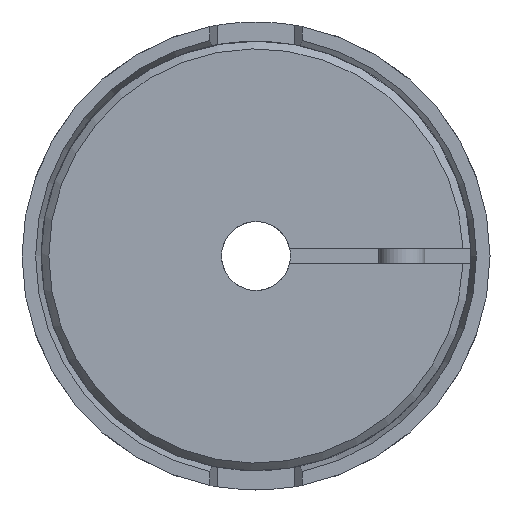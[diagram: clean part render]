
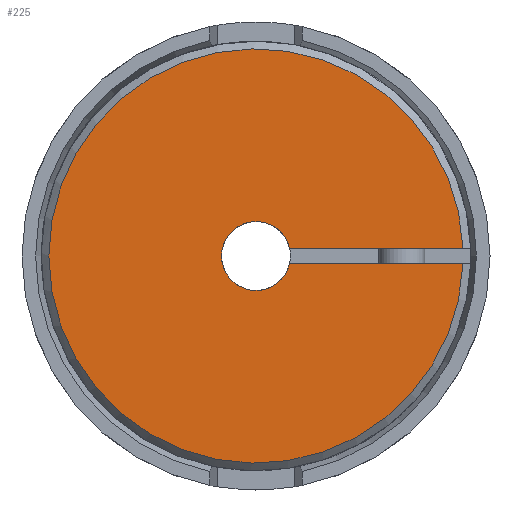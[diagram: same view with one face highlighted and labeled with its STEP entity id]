
A CAD part, left-side view. The second image highlights one B-rep face of the part: STEP entity #225.
In plain terms, the highlighted planar face has unit normal (-1, 0, 0).
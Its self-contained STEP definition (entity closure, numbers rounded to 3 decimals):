
#225 = ADVANCED_FACE( '', ( #562 ), #563, .T. );
#562 = FACE_OUTER_BOUND( '', #1036, .T. );
#563 = PLANE( '', #1037 );
#1036 = EDGE_LOOP( '', ( #1649, #1650, #1651, #1652 ) );
#1037 = AXIS2_PLACEMENT_3D( '', #1653, #1654, #1655 );
#1649 = ORIENTED_EDGE( '', *, *, #2550, .F. );
#1650 = ORIENTED_EDGE( '', *, *, #2453, .T. );
#1651 = ORIENTED_EDGE( '', *, *, #2522, .F. );
#1652 = ORIENTED_EDGE( '', *, *, #2551, .T. );
#1653 = CARTESIAN_POINT( '', ( -52.501, 0., 3.5 ) );
#1654 = DIRECTION( '', ( -1., 0., 0. ) );
#1655 = DIRECTION( '', ( 0., 0., 1. ) );
#2453 = EDGE_CURVE( '', #2875, #2873, #2876, .F. );
#2522 = EDGE_CURVE( '', #2986, #2873, #2988, .T. );
#2550 = EDGE_CURVE( '', #2875, #3032, #3033, .T. );
#2551 = EDGE_CURVE( '', #2986, #3032, #3034, .T. );
#2873 = VERTEX_POINT( '', #3524 );
#2875 = VERTEX_POINT( '', #3527 );
#2876 = CIRCLE( '', #3528, 4.5 );
#2986 = VERTEX_POINT( '', #3666 );
#2988 = LINE( '', #3669, #3670 );
#3032 = VERTEX_POINT( '', #3797 );
#3033 = LINE( '', #3798, #3799 );
#3034 = CIRCLE( '', #3800, 27. );
#3524 = CARTESIAN_POINT( '', ( -52.501, -4.387, 1. ) );
#3527 = CARTESIAN_POINT( '', ( -52.501, -4.387, -1. ) );
#3528 = AXIS2_PLACEMENT_3D( '', #4464, #4465, #4466 );
#3666 = CARTESIAN_POINT( '', ( -52.501, -26.981, 1. ) );
#3669 = CARTESIAN_POINT( '', ( -52.501, -30., 1. ) );
#3670 = VECTOR( '', #4570, 1000. );
#3797 = CARTESIAN_POINT( '', ( -52.501, -26.981, -1. ) );
#3798 = CARTESIAN_POINT( '', ( -52.501, -2., -1. ) );
#3799 = VECTOR( '', #4611, 1000. );
#3800 = AXIS2_PLACEMENT_3D( '', #4612, #4613, #4614 );
#4464 = CARTESIAN_POINT( '', ( -52.501, 0., 0. ) );
#4465 = DIRECTION( '', ( -1., 0., 0. ) );
#4466 = DIRECTION( '', ( 0., 0., 1. ) );
#4570 = DIRECTION( '', ( 0., 1., 0. ) );
#4611 = DIRECTION( '', ( 0., -1., 0. ) );
#4612 = CARTESIAN_POINT( '', ( -52.501, 0., 0. ) );
#4613 = DIRECTION( '', ( -1., 0., 0. ) );
#4614 = DIRECTION( '', ( 0., 0., 1. ) );
